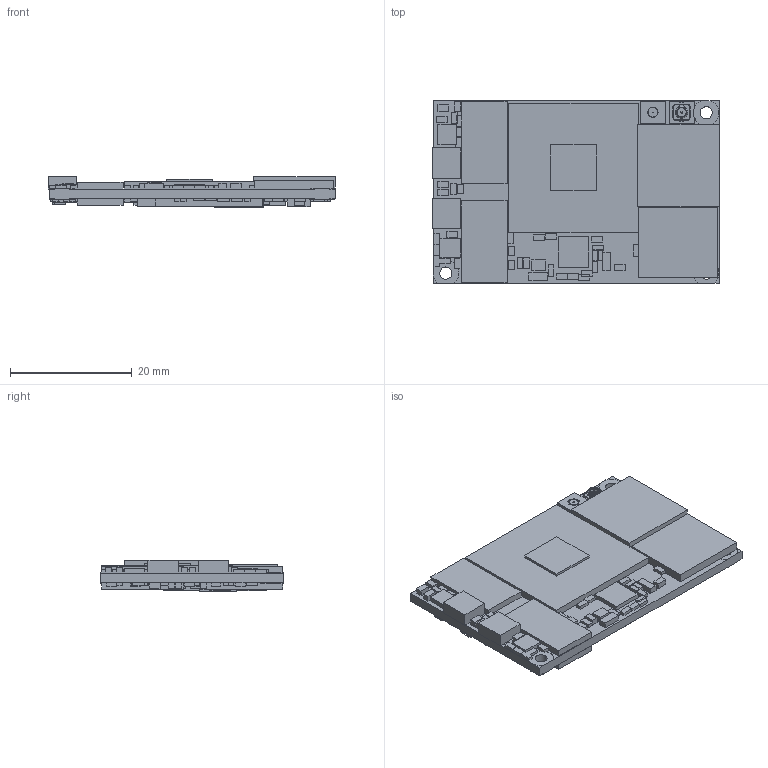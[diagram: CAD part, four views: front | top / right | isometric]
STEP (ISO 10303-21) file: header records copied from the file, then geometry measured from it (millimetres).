
FILE_DESCRIPTION (( 'STEP AP203' ), '1' );
FILE_NAME ('IMS6-SOM_Rev.1.4.STEP', '2016-10-26T19:27:15', ( '' ), ( '' ), 'SwSTEP 2.0', 'SolidWorks 2014', '' );
FILE_SCHEMA (( 'CONFIG_CONTROL_DESIGN' ));
Length unit declared in the file: millimetre
Products named in the file (5): IMS6-SOM_Rev.1.4; IMS6-SOM-spin-rev1.4; UFL SMT Connector_U_FL-R-SMT-1; DF40C-70DP; DF40C-80DP
Assembly tree (6 placements, depth 2):
  IMS6-SOM_Rev.1.4
    IMS6-SOM-spin-rev1.4
    DF40C-70DP
    DF40C-80DP  x2
    UFL SMT Connector_U_FL-R-SMT-1  x2
Bounding box: 47.1 x 30 x 5.17 mm (x, y, z)
Volume: 4562.3 mm3; surface area: 8569.7 mm2
Topology: 221 solids, 221 shells, 4622 faces, 12383 edges, 8211 vertices
Faces by surface type: plane 3413, cylinder 1109, bspline 88, cone 12
Entity records: 105211 total; most frequent: CARTESIAN_POINT 19459, ORIENTED_EDGE 17888, DIRECTION 17121, EDGE_CURVE 8944, VECTOR 7365, LINE 7365, VERTEX_POINT 5938, AXIS2_PLACEMENT_3D 4878
